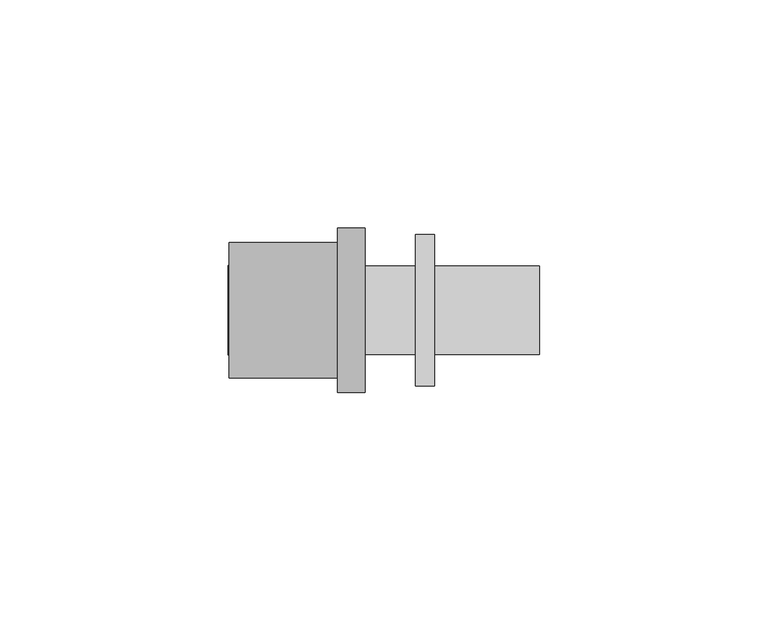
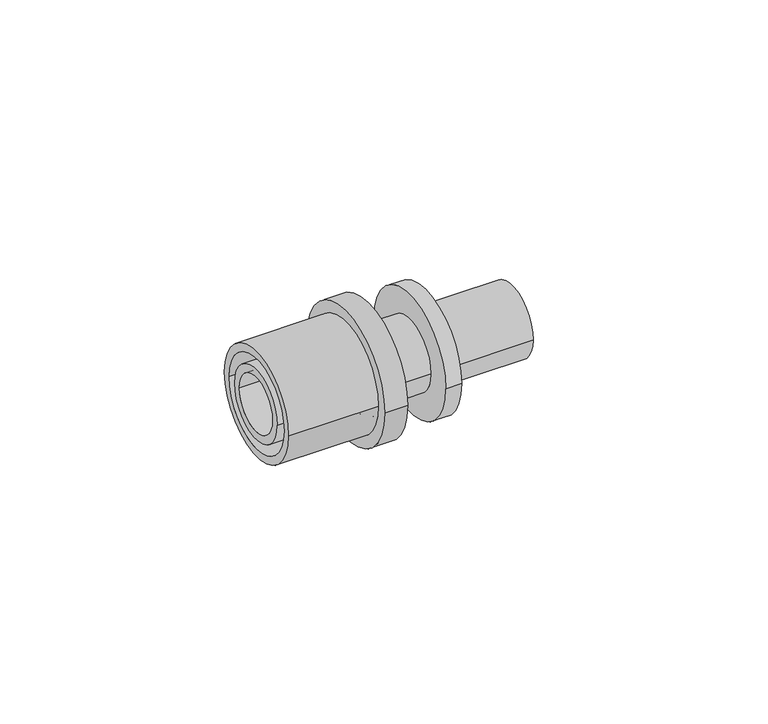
"""IFC4 building model written with IfcOpenShell, lengths in millimetres: pipe fitting geometry, FASTLOC_Adapter coupling EX+ : FSL TC EX+ AT."""

from ifc_helpers import new_model, si_unit, frame, origin, place, context, project, spatial, polyline, circle_curve, source, transform, mapped, element, save
from ifc_brep_helpers import plane_surface, cylinder_surface, revolved_surface, advanced_brep


def pipe_fitting_503ca6ef(model_context):
    return source(origin(), model_context, "Body", "AdvancedBrep", [
        advanced_brep(
        [(-4.6, -18.0, 0.0), (-4.6, 18.0, 0.0), (1.4, 18.0, 0.0), (1.4, -18.0, 0.0), (-28.4, -14.85, 0.0), (-28.4, 14.85, 0.0), (-4.6, 14.85, 0.0), (-4.6, -14.85, 0.0), (1.4, -12.65, 0.0), (1.4, 12.65, 0.0), (-28.4, 12.65, 0.0), (-28.4, -12.65, 0.0)],
        [
            (0, 1, circle_curve(frame((-4.6, 0.0, 0.0), z_axis=(1.0, 0.0, 0.0), x_axis=(0.0, 1.0, 0.0)), 18.0)),
            (1, 2),
            (2, 3, circle_curve(frame((1.4, 0.0, 0.0), z_axis=(-1.0, 0.0, 0.0), x_axis=(0.0, 1.0, 0.0)), 18.0)),
            (3, 0),
            (4, 5, circle_curve(frame((-28.4, 0.0, 0.0), z_axis=(1.0, 0.0, 0.0), x_axis=(0.0, 1.0, 0.0)), 14.85)),
            (5, 6),
            (6, 7, circle_curve(frame((-4.6, 0.0, 0.0), z_axis=(-1.0, 0.0, 0.0), x_axis=(0.0, 1.0, 0.0)), 14.85)),
            (7, 4),
            (8, 9, circle_curve(frame((1.4, 0.0, 0.0), z_axis=(1.0, 0.0, 0.0), x_axis=(0.0, 1.0, 0.0)), 12.65)),
            (9, 10),
            (10, 11, circle_curve(frame((-28.4, 0.0, 0.0), z_axis=(-1.0, 0.0, 0.0), x_axis=(0.0, 1.0, 0.0)), 12.65)),
            (11, 8),
            (1, 0, circle_curve(frame((-4.6, 0.0, 0.0), z_axis=(1.0, 0.0, 0.0), x_axis=(0.0, -1.0, 0.0)), 18.0)),
            (3, 2, circle_curve(frame((1.4, 0.0, 0.0), z_axis=(-1.0, 0.0, 0.0), x_axis=(0.0, -1.0, 0.0)), 18.0)),
            (6, 7, circle_curve(frame((-4.6, 0.0, 0.0), z_axis=(1.0, 0.0, 0.0), x_axis=(0.0, -1.0, 0.0)), 14.85)),
            (5, 4, circle_curve(frame((-28.4, 0.0, 0.0), z_axis=(1.0, 0.0, 0.0), x_axis=(0.0, -1.0, 0.0)), 14.85)),
            (10, 11, circle_curve(frame((-28.4, 0.0, 0.0), z_axis=(1.0, 0.0, 0.0), x_axis=(0.0, -1.0, 0.0)), 12.65)),
            (9, 8, circle_curve(frame((1.4, 0.0, 0.0), z_axis=(1.0, 0.0, 0.0), x_axis=(0.0, -1.0, 0.0)), 12.65)),
        ],
        [
            cylinder_surface(frame((1.4, 0.0, 0.0), z_axis=(-1.0, 0.0, 0.0), x_axis=(0.0, 1.0, 0.0)), 18.0),
            cylinder_surface(frame((1.4, 0.0, 0.0), z_axis=(-1.0, 0.0, 0.0), x_axis=(0.0, 1.0, 0.0)), 14.85),
            revolved_surface(polyline([(-28.4, 12.65, 0.0), (1.4, 12.65, 0.0)]), (1.4, 0.0, 0.0), (-1.0, 0.0, 0.0)),
            cylinder_surface(frame((1.4, 0.0, 0.0), z_axis=(-1.0, 0.0, 0.0), x_axis=(0.0, -1.0, 0.0)), 18.0),
            plane_surface(frame((-4.6, 0.0, 0.0), z_axis=(-1.0, 0.0, 0.0), x_axis=(0.0, -1.0, 0.0))),
            cylinder_surface(frame((1.4, 0.0, 0.0), z_axis=(-1.0, 0.0, 0.0), x_axis=(0.0, -1.0, 0.0)), 14.85),
            plane_surface(frame((-28.4, 0.0, 0.0), z_axis=(-1.0, 0.0, 0.0), x_axis=(0.0, -1.0, 0.0))),
            revolved_surface(polyline([(-28.4, -12.65, 0.0), (1.4, -12.65, 0.0)]), (1.4, 0.0, 0.0), (-1.0, 0.0, 0.0)),
            plane_surface(frame((1.4, 0.0, 0.0), z_axis=(1.0, 0.0, 0.0), x_axis=(0.0, -1.0, 0.0))),
        ],
        [
            (0, [[1, 2, 3, 4]]),
            (1, [[5, 6, 7, 8]]),
            (2, [[9, 10, 11, 12]]),
            (3, [[13, -4, 14, -2]]),
            (4, [[-13, -1], [15, -7]]),
            (5, [[16, -8, -15, -6]]),
            (6, [[-16, -5], [17, -11]]),
            (7, [[18, -12, -17, -10]]),
            (8, [[-14, -3], [-18, -9]]),
        ],
    ),
        advanced_brep(
        [(0.0, 7.35, 0.0), (0.0, -7.35, 0.0), (39.6, -7.35, 0.0), (39.6, 7.35, 0.0), (12.4, 9.65, 0.0), (12.4, -9.65, 0.0), (0.0, -9.65, 0.0), (0.0, 9.65, 0.0), (16.6, 16.55, 0.0), (16.6, -16.55, 0.0), (12.4, -16.55, 0.0), (12.4, 16.55, 0.0), (39.6, 9.65, 0.0), (39.6, -9.65, 0.0), (16.6, -9.65, 0.0), (16.6, 9.65, 0.0)],
        [
            (0, 1, circle_curve(frame((0.0, 0.0, 0.0), z_axis=(-1.0, 0.0, 0.0), x_axis=(0.0, -1.0, 0.0)), 7.35)),
            (1, 2),
            (2, 3, circle_curve(frame((39.6, 0.0, 0.0), z_axis=(1.0, 0.0, 0.0), x_axis=(0.0, -1.0, 0.0)), 7.35)),
            (3, 0),
            (4, 5, circle_curve(frame((12.4, 0.0, 0.0), z_axis=(-1.0, 0.0, 0.0), x_axis=(0.0, -1.0, 0.0)), 9.65)),
            (5, 6),
            (6, 7, circle_curve(frame((0.0, 0.0, 0.0), z_axis=(1.0, 0.0, 0.0), x_axis=(0.0, -1.0, 0.0)), 9.65)),
            (7, 4),
            (8, 9, circle_curve(frame((16.6, 0.0, 0.0), z_axis=(-1.0, 0.0, 0.0), x_axis=(0.0, -1.0, 0.0)), 16.55)),
            (9, 10),
            (10, 11, circle_curve(frame((12.4, 0.0, 0.0), z_axis=(1.0, 0.0, 0.0), x_axis=(0.0, -1.0, 0.0)), 16.55)),
            (11, 8),
            (12, 13, circle_curve(frame((39.6, 0.0, 0.0), z_axis=(-1.0, 0.0, 0.0), x_axis=(0.0, -1.0, 0.0)), 9.65)),
            (13, 14),
            (14, 15, circle_curve(frame((16.6, 0.0, 0.0), z_axis=(1.0, 0.0, 0.0), x_axis=(0.0, -1.0, 0.0)), 9.65)),
            (15, 12),
            (1, 0, circle_curve(frame((0.0, 0.0, 0.0), z_axis=(-1.0, 0.0, 0.0), x_axis=(0.0, 1.0, 0.0)), 7.35)),
            (3, 2, circle_curve(frame((39.6, 0.0, 0.0), z_axis=(1.0, 0.0, 0.0), x_axis=(0.0, 1.0, 0.0)), 7.35)),
            (6, 7, circle_curve(frame((0.0, 0.0, 0.0), z_axis=(-1.0, 0.0, 0.0), x_axis=(0.0, 1.0, 0.0)), 9.65)),
            (5, 4, circle_curve(frame((12.4, 0.0, 0.0), z_axis=(-1.0, 0.0, 0.0), x_axis=(0.0, 1.0, 0.0)), 9.65)),
            (10, 11, circle_curve(frame((12.4, 0.0, 0.0), z_axis=(-1.0, 0.0, 0.0), x_axis=(0.0, 1.0, 0.0)), 16.55)),
            (9, 8, circle_curve(frame((16.6, 0.0, 0.0), z_axis=(-1.0, 0.0, 0.0), x_axis=(0.0, 1.0, 0.0)), 16.55)),
            (14, 15, circle_curve(frame((16.6, 0.0, 0.0), z_axis=(-1.0, 0.0, 0.0), x_axis=(0.0, 1.0, 0.0)), 9.65)),
            (13, 12, circle_curve(frame((39.6, 0.0, 0.0), z_axis=(-1.0, 0.0, 0.0), x_axis=(0.0, 1.0, 0.0)), 9.65)),
        ],
        [
            revolved_surface(polyline([(39.6, -7.35, 0.0), (0.0, -7.35, 0.0)]), (0.0, 0.0, 0.0), (1.0, 0.0, 0.0)),
            cylinder_surface(frame((0.0, 0.0, 0.0), z_axis=(1.0, 0.0, 0.0), x_axis=(0.0, -1.0, 0.0)), 9.65),
            cylinder_surface(frame((0.0, 0.0, 0.0), z_axis=(1.0, 0.0, 0.0), x_axis=(0.0, -1.0, 0.0)), 16.55),
            revolved_surface(polyline([(39.6, 7.35, 0.0), (0.0, 7.35, 0.0)]), (0.0, 0.0, 0.0), (1.0, 0.0, 0.0)),
            plane_surface(frame((0.0, 0.0, 0.0), z_axis=(-1.0, 0.0, 0.0), x_axis=(0.0, 1.0, 0.0))),
            cylinder_surface(frame((0.0, 0.0, 0.0), z_axis=(1.0, 0.0, 0.0), x_axis=(0.0, 1.0, 0.0)), 9.65),
            plane_surface(frame((12.4, 0.0, 0.0), z_axis=(-1.0, 0.0, 0.0), x_axis=(0.0, 1.0, 0.0))),
            cylinder_surface(frame((0.0, 0.0, 0.0), z_axis=(1.0, 0.0, 0.0), x_axis=(0.0, 1.0, 0.0)), 16.55),
            plane_surface(frame((16.6, 0.0, 0.0), z_axis=(1.0, 0.0, 0.0), x_axis=(0.0, 1.0, 0.0))),
            plane_surface(frame((39.6, 0.0, 0.0), z_axis=(1.0, 0.0, 0.0), x_axis=(0.0, 1.0, 0.0))),
        ],
        [
            (0, [[1, 2, 3, 4]]),
            (1, [[5, 6, 7, 8]]),
            (2, [[9, 10, 11, 12]]),
            (1, [[13, 14, 15, 16]]),
            (3, [[17, -4, 18, -2]]),
            (4, [[19, -7], [-17, -1]]),
            (5, [[20, -8, -19, -6]]),
            (6, [[21, -11], [-20, -5]]),
            (7, [[22, -12, -21, -10]]),
            (8, [[-22, -9], [23, -15]]),
            (5, [[24, -16, -23, -14]]),
            (9, [[-24, -13], [-18, -3]]),
        ],
    ),
        advanced_brep(
        [(-4.6, 9.85, 0.0), (-4.6, -9.85, 0.0), (-28.6, -9.85, 0.0), (-28.6, 9.85, 0.0), (-1.8, 11.35, 0.0), (-1.8, -11.35, 0.0), (-4.6, -11.35, 0.0), (-4.6, 11.35, 0.0), (0.0, 9.85, 0.0), (0.0, -9.85, 0.0), (-1.8, -9.85, 0.0), (-1.8, 9.85, 0.0), (-28.6, 7.6, 0.0), (-28.6, -7.6, 0.0), (0.0, -7.6, 0.0), (0.0, 7.6, 0.0)],
        [
            (0, 1, circle_curve(frame((-4.6, 0.0, 0.0), z_axis=(-1.0, 0.0, 0.0), x_axis=(0.0, -1.0, 0.0)), 9.85)),
            (1, 2),
            (2, 3, circle_curve(frame((-28.6, 0.0, 0.0), z_axis=(1.0, 0.0, 0.0), x_axis=(0.0, -1.0, 0.0)), 9.85)),
            (3, 0),
            (4, 5, circle_curve(frame((-1.8, 0.0, 0.0), z_axis=(-1.0, 0.0, 0.0), x_axis=(0.0, -1.0, 0.0)), 11.35)),
            (5, 6),
            (6, 7, circle_curve(frame((-4.6, 0.0, 0.0), z_axis=(1.0, 0.0, 0.0), x_axis=(0.0, -1.0, 0.0)), 11.35)),
            (7, 4),
            (8, 9, circle_curve(frame((0.0, 0.0, 0.0), z_axis=(-1.0, 0.0, 0.0), x_axis=(0.0, -1.0, 0.0)), 9.85)),
            (9, 10),
            (10, 11, circle_curve(frame((-1.8, 0.0, 0.0), z_axis=(1.0, 0.0, 0.0), x_axis=(0.0, -1.0, 0.0)), 9.85)),
            (11, 8),
            (12, 13, circle_curve(frame((-28.6, 0.0, 0.0), z_axis=(-1.0, 0.0, 0.0), x_axis=(0.0, -1.0, 0.0)), 7.6)),
            (13, 14),
            (14, 15, circle_curve(frame((0.0, 0.0, 0.0), z_axis=(1.0, 0.0, 0.0), x_axis=(0.0, -1.0, 0.0)), 7.6)),
            (15, 12),
            (2, 3, circle_curve(frame((-28.6, 0.0, 0.0), z_axis=(-1.0, 0.0, 0.0), x_axis=(0.0, 1.0, 0.0)), 9.85)),
            (12, 13, circle_curve(frame((-28.6, 0.0, 0.0), z_axis=(1.0, 0.0, 0.0), x_axis=(0.0, 1.0, 0.0)), 7.6)),
            (1, 0, circle_curve(frame((-4.6, 0.0, 0.0), z_axis=(-1.0, 0.0, 0.0), x_axis=(0.0, 1.0, 0.0)), 9.85)),
            (6, 7, circle_curve(frame((-4.6, 0.0, 0.0), z_axis=(-1.0, 0.0, 0.0), x_axis=(0.0, 1.0, 0.0)), 11.35)),
            (5, 4, circle_curve(frame((-1.8, 0.0, 0.0), z_axis=(-1.0, 0.0, 0.0), x_axis=(0.0, 1.0, 0.0)), 11.35)),
            (10, 11, circle_curve(frame((-1.8, 0.0, 0.0), z_axis=(-1.0, 0.0, 0.0), x_axis=(0.0, 1.0, 0.0)), 9.85)),
            (9, 8, circle_curve(frame((0.0, 0.0, 0.0), z_axis=(-1.0, 0.0, 0.0), x_axis=(0.0, 1.0, 0.0)), 9.85)),
            (14, 15, circle_curve(frame((0.0, 0.0, 0.0), z_axis=(-1.0, 0.0, 0.0), x_axis=(0.0, 1.0, 0.0)), 7.6)),
        ],
        [
            cylinder_surface(frame((0.0, 0.0, 0.0), z_axis=(1.0, 0.0, 0.0), x_axis=(0.0, -1.0, 0.0)), 9.85),
            cylinder_surface(frame((0.0, 0.0, 0.0), z_axis=(1.0, 0.0, 0.0), x_axis=(0.0, -1.0, 0.0)), 11.35),
            revolved_surface(polyline([(0.0, -7.6, 0.0), (-28.6, -7.6, 0.0)]), (0.0, 0.0, 0.0), (1.0, 0.0, 0.0)),
            plane_surface(frame((-28.6, 0.0, 0.0), z_axis=(-1.0, 0.0, 0.0), x_axis=(0.0, 1.0, 0.0))),
            cylinder_surface(frame((0.0, 0.0, 0.0), z_axis=(1.0, 0.0, 0.0), x_axis=(0.0, 1.0, 0.0)), 9.85),
            plane_surface(frame((-4.6, 0.0, 0.0), z_axis=(-1.0, 0.0, 0.0), x_axis=(0.0, 1.0, 0.0))),
            cylinder_surface(frame((0.0, 0.0, 0.0), z_axis=(1.0, 0.0, 0.0), x_axis=(0.0, 1.0, 0.0)), 11.35),
            plane_surface(frame((-1.8, 0.0, 0.0), z_axis=(1.0, 0.0, 0.0), x_axis=(0.0, 1.0, 0.0))),
            plane_surface(frame((0.0, 0.0, 0.0), z_axis=(1.0, 0.0, 0.0), x_axis=(0.0, 1.0, 0.0))),
            revolved_surface(polyline([(0.0, 7.6, 0.0), (-28.6, 7.6, 0.0)]), (0.0, 0.0, 0.0), (1.0, 0.0, 0.0)),
        ],
        [
            (0, [[1, 2, 3, 4]]),
            (1, [[5, 6, 7, 8]]),
            (0, [[9, 10, 11, 12]]),
            (2, [[13, 14, 15, 16]]),
            (3, [[17, -3], [18, -13]]),
            (4, [[19, -4, -17, -2]]),
            (5, [[20, -7], [-19, -1]]),
            (6, [[21, -8, -20, -6]]),
            (7, [[-21, -5], [22, -11]]),
            (4, [[23, -12, -22, -10]]),
            (8, [[-23, -9], [24, -15]]),
            (9, [[-18, -16, -24, -14]]),
        ],
    ),
    ])


if __name__ == "__main__":
    model = new_model("IFC4")
    model_context = context("Model", 3, world=origin())
    ifc_project = project(units=[si_unit("LENGTHUNIT", "METRE", prefix="MILLI")], contexts=[model_context])
    site = spatial("IfcSite", under=ifc_project)
    building = spatial("IfcBuilding", under=site)
    placement = place(None, origin())
    pipe_fitting_shape = pipe_fitting_503ca6ef(model_context)
    element("IfcPipeFitting", 1, ObjectType="FASTLOC_Adapter coupling EX+ : FSL TC EX+ AT", at=placement, inside=building, context=model_context, shape_type="MappedRepresentation", body=[
        mapped(pipe_fitting_shape, transform((0.0, 0.0, 0.0), x_axis=(1.0, 0.0, 0.0), y_axis=(0.0, 1.0, 0.0), z_axis=(0.0, 0.0, 1.0))),
    ])
    save(model, "model.ifc")
